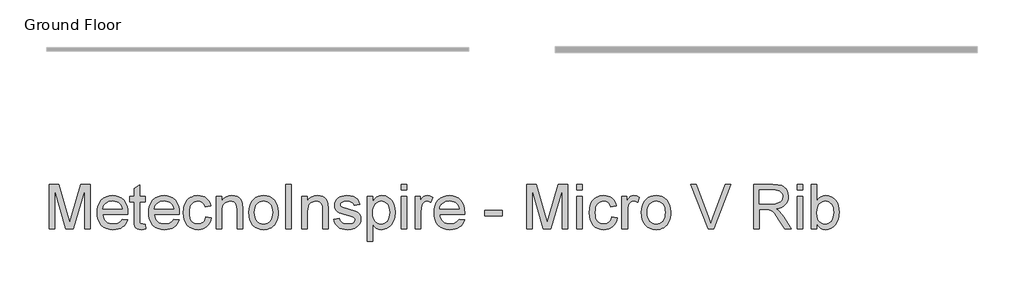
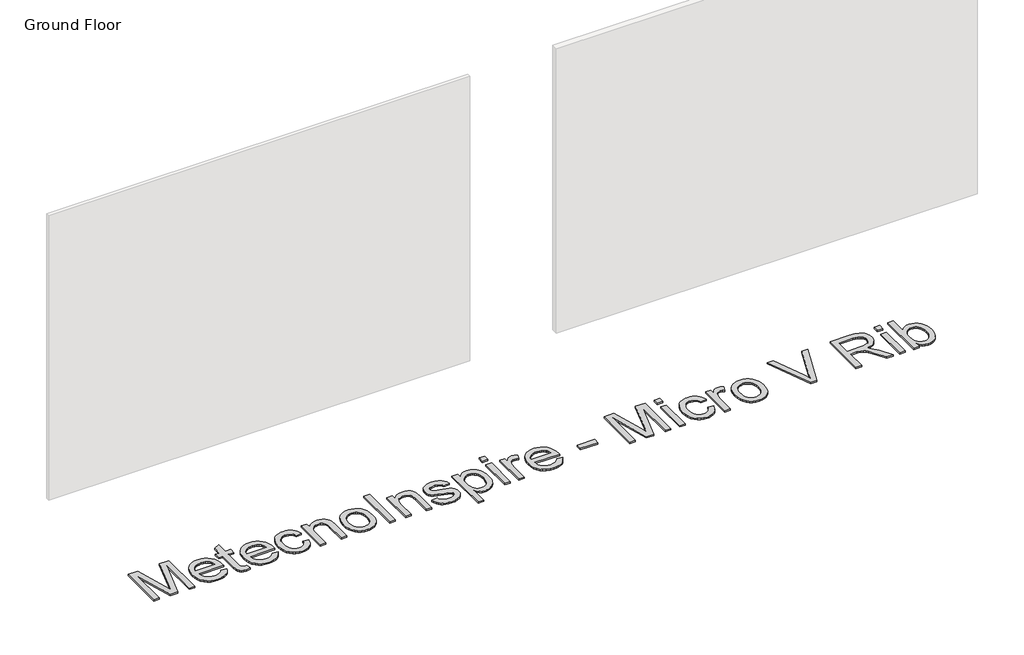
# One storey, part 4 of 5: 1 proxy.
"""IFC4 building model written with IfcOpenShell, lengths in millimetres."""

from ifc_helpers import new_model, si_unit, origin, origin_with_axes, place, context, project, spatial, polyline, outline, extrude, element, save

model = new_model("IFC4")

# Units and contexts
model_context = context("Model", 3, world=origin())
ifc_project = project(units=[si_unit("LENGTHUNIT", "METRE", prefix="MILLI")], contexts=[model_context])

# Site, building, storey
site = spatial("IfcSite", under=ifc_project)
building = spatial("IfcBuilding", under=site)
storey = spatial("IfcBuildingStorey", under=building, Name="Ground Floor", Elevation=0.0)

# Proxy
placement = place(None, origin())
element("IfcBuildingElementProxy", 1, Name="600mm Arial", ObjectType="600mm Arial", at=placement, inside=storey, context=model_context, shape_type="SweptSolid", body=[
    extrude(outline(polyline([(44468.938782, -1483.8412169), (44468.938782, -893.0719861), (44596.0060897, -893.0719861), (44716.8714743, -1309.4662169), (44741.2464743, -1396.4373708), (44767.640705, -1302.2546784), (44886.4868589, -893.0719861), (45013.5541666, -893.0719861), (45013.5541666, -1483.8412169), (44939.7080127, -1483.8412169), (44939.7080127, -966.91814), (44791.2945512, -1483.8412169), (44691.1983974, -1483.8412169), (44542.7849358, -966.91814), (44542.7849358, -1483.8412169), (44468.938782, -1483.8412169)])), origin_with_axes(), (0.0, 0.0, 1.0), 20.0),
    extrude(outline(polyline([(45437.3041666, -1354.6104477), (45509.7080127, -1363.8412169), (45498.6067507, -1392.8406159), (45483.6202724, -1418.3965054), (45464.7485776, -1440.5088852), (45441.9916666, -1459.1777554), (45415.5839142, -1474.0064813), (45385.7596954, -1484.5984284), (45352.5190103, -1490.9535967), (45315.8618589, -1493.0719861), (45270.0415464, -1489.4166376), (45229.2152243, -1478.4505919), (45193.3828925, -1460.1738491), (45162.5445512, -1434.5864092), (45137.7458733, -1402.4004116), (45120.032532, -1364.3279958), (45109.4045272, -1320.3691616), (45105.8618589, -1270.5239092), (45109.4405849, -1218.9884525), (45120.1767627, -1173.5647746), (45138.0703925, -1134.2528756), (45163.1214743, -1101.0527554), (45193.8786858, -1074.6765534), (45228.890705, -1055.8364092), (45268.157532, -1044.5323227), (45311.6791666, -1040.7642938), (45353.7990584, -1044.5233083), (45391.8895031, -1055.8003515), (45425.9505007, -1074.5954236), (45455.9820512, -1100.9085246), (45480.4967748, -1134.0365294), (45498.0072916, -1173.2763131), (45508.5136017, -1218.6278756), (45512.015705, -1270.0912169), (45511.5830127, -1289.9950631), (45179.7080127, -1289.9950631), (45183.9853565, -1319.4632121), (45192.4904647, -1345.2715054), (45205.2233373, -1367.4199429), (45222.1839743, -1385.9085246), (45242.4348757, -1400.4848467), (45265.0385416, -1410.8965054), (45289.9949719, -1417.1435006), (45317.3041666, -1419.2258323), (45356.6070512, -1415.3676592), (45389.7080127, -1403.79314), (45416.6070512, -1383.7811208), (45437.3041666, -1354.6104477)]), holes=[polyline([(45179.7080127, -1216.1489092), (45438.1695512, -1216.1489092), (45428.1815704, -1177.1344861), (45419.5908252, -1161.7919381), (45408.6022435, -1149.2258323), (45388.4640224, -1134.0816015), (45365.5493589, -1123.2642938), (45339.8582531, -1116.7739092), (45311.390705, -1114.6104477), (45285.4246594, -1116.3367097), (45261.6130608, -1121.5154958), (45239.9559094, -1130.1468058), (45220.453205, -1142.23064), (45204.08752, -1157.2081039), (45191.8414262, -1174.5203034), (45183.7149238, -1194.1672385), (45179.7080127, -1216.1489092)])]), origin_with_axes(), (0.0, 0.0, 1.0), 20.0),
    extrude(outline(polyline([(45742.7849358, -1422.2546784), (45752.015705, -1486.0046784), (45696.7753204, -1493.0719861), (45661.3306089, -1490.0070823), (45634.9003204, -1480.8123708), (45616.2224358, -1466.6416977), (45604.0349358, -1448.6489092), (45597.328205, -1417.7474669), (45595.0926281, -1364.8508323), (45595.0926281, -1123.8412169), (45539.7080127, -1123.8412169), (45539.7080127, -1049.9950631), (45595.0926281, -1049.9950631), (45595.0926281, -944.5623708), (45668.938782, -901.1489092), (45668.938782, -1049.9950631), (45742.7849358, -1049.9950631), (45742.7849358, -1123.8412169), (45668.938782, -1123.8412169), (45668.938782, -1362.6873708), (45672.8330127, -1400.7642938), (45685.453205, -1414.2498708), (45696.1082531, -1417.9818419), (45710.6214743, -1419.2258323), (45742.7849358, -1422.2546784)])), origin_with_axes(), (0.0, 0.0, 1.0), 20.0),
    extrude(outline(polyline([(46120.3810897, -1354.6104477), (46192.7849358, -1363.8412169), (46181.6836738, -1392.8406159), (46166.6971954, -1418.3965054), (46147.8255007, -1440.5088852), (46125.0685897, -1459.1777554), (46098.6608373, -1474.0064813), (46068.8366185, -1484.5984284), (46035.5959334, -1490.9535967), (45998.938782, -1493.0719861), (45953.1184695, -1489.4166376), (45912.2921474, -1478.4505919), (45876.4598156, -1460.1738491), (45845.6214743, -1434.5864092), (45820.8227964, -1402.4004116), (45803.109455, -1364.3279958), (45792.4814502, -1320.3691616), (45788.938782, -1270.5239092), (45792.5175079, -1218.9884525), (45803.2536858, -1173.5647746), (45821.1473156, -1134.2528756), (45846.1983974, -1101.0527554), (45876.9556089, -1074.6765534), (45911.9676281, -1055.8364092), (45951.234455, -1044.5323227), (45994.7560897, -1040.7642938), (46036.8759815, -1044.5233083), (46074.9664262, -1055.8003515), (46109.0274238, -1074.5954236), (46139.0589743, -1100.9085246), (46163.5736978, -1134.0365294), (46181.0842147, -1173.2763131), (46191.5905248, -1218.6278756), (46195.0926281, -1270.0912169), (46194.6599358, -1289.9950631), (45862.7849358, -1289.9950631), (45867.0622796, -1319.4632121), (45875.5673877, -1345.2715054), (45888.3002603, -1367.4199429), (45905.2608974, -1385.9085246), (45925.5117988, -1400.4848467), (45948.1154647, -1410.8965054), (45973.071895, -1417.1435006), (46000.3810897, -1419.2258323), (46039.6839743, -1415.3676592), (46072.7849358, -1403.79314), (46099.6839743, -1383.7811208), (46120.3810897, -1354.6104477)]), holes=[polyline([(45862.7849358, -1216.1489092), (46121.2464743, -1216.1489092), (46111.2584935, -1177.1344861), (46102.6677483, -1161.7919381), (46091.6791666, -1149.2258323), (46071.5409454, -1134.0816015), (46048.626282, -1123.2642938), (46022.9351762, -1116.7739092), (45994.4676281, -1114.6104477), (45968.5015825, -1116.3367097), (45944.6899839, -1121.5154958), (45923.0328325, -1130.1468058), (45903.5301281, -1142.23064), (45887.164443, -1157.2081039), (45874.9183493, -1174.5203034), (45866.7918469, -1194.1672385), (45862.7849358, -1216.1489092)])]), origin_with_axes(), (0.0, 0.0, 1.0), 20.0),
    extrude(outline(polyline([(46545.8618589, -1326.91814), (46619.7080127, -1336.1489092), (46611.6761618, -1370.9941616), (46599.1190704, -1401.8279958), (46582.0367387, -1428.6504116), (46560.4291666, -1451.4614092), (46535.2068108, -1469.6660366), (46507.2801281, -1482.6693419), (46476.6491185, -1490.4713251), (46443.313782, -1493.0719861), (46401.8970151, -1489.4436808), (46364.7620993, -1478.558765), (46331.9090344, -1460.4172385), (46303.3378204, -1435.0191015), (46280.211318, -1402.8421183), (46263.6923877, -1364.3640534), (46253.7810296, -1319.5849068), (46250.4772435, -1268.5046784), (46256.1202724, -1202.7895342), (46263.1740584, -1173.2177193), (46273.0493589, -1145.8364092), (46285.813782, -1121.1954837), (46301.5349358, -1099.8448227), (46320.2128204, -1081.784426), (46341.8474358, -1067.0142938), (46365.4607171, -1055.5299188), (46390.0745993, -1047.3267938), (46415.6890825, -1042.4049188), (46442.3041666, -1040.7642938), (46475.0670873, -1043.0178996), (46504.7020031, -1049.7787169), (46531.2089142, -1061.0467458), (46554.5878204, -1076.8219861), (46574.4420873, -1096.7438611), (46590.37508, -1120.4517938), (46602.3867988, -1147.9457842), (46610.4772435, -1179.2258323), (46536.6310897, -1188.4566015), (46523.235657, -1156.2390534), (46502.376282, -1133.1441015), (46475.2068108, -1119.2438611), (46442.8810897, -1114.6104477), (46417.789443, -1116.8910967), (46395.1587339, -1123.7330438), (46374.9889623, -1135.136289), (46357.2801281, -1151.1008323), (46342.8615584, -1171.996265), (46332.56258, -1198.1921784), (46326.383193, -1229.6885727), (46324.3233974, -1266.4854477), (46326.3381209, -1303.8367097), (46332.3822916, -1335.6981881), (46342.4559094, -1362.0698828), (46356.5589743, -1382.9517938), (46373.9162459, -1398.8216857), (46393.7524839, -1410.1573227), (46416.0676882, -1416.9587049), (46440.8618589, -1419.2258323), (46479.1010416, -1413.5647746), (46495.6380007, -1406.4884525), (46510.453205, -1396.5816015), (46523.1319911, -1383.7360486), (46533.2596954, -1367.8436208), (46540.836318, -1348.9043179), (46545.8618589, -1326.91814)])), origin_with_axes(), (0.0, 0.0, 1.0), 20.0),
    extrude(outline(polyline([(46684.3233974, -1483.8412169), (46684.3233974, -1049.9950631), (46758.1695512, -1049.9950631), (46758.1695512, -1110.5719861), (46783.8245993, -1080.0311208), (46814.6358974, -1058.2162169), (46850.6034454, -1045.1272746), (46891.7272435, -1040.7642938), (46928.1274839, -1044.2799188), (46961.4628204, -1054.8267938), (46989.2633012, -1071.0888131), (47009.0589743, -1091.7498708), (47022.4904647, -1116.7558804), (47031.1983974, -1146.0527554), (47035.0926281, -1217.4469861), (47035.0926281, -1483.8412169), (46961.2464743, -1483.8412169), (46961.2464743, -1227.3989092), (46959.1190704, -1189.2138131), (46952.7368589, -1162.0623708), (46940.9640224, -1142.6092458), (46922.6647435, -1127.5191015), (46899.2092147, -1117.8376111), (46871.9676281, -1114.6104477), (46849.5442507, -1116.4223467), (46828.7164262, -1121.8580438), (46809.4841546, -1130.917539), (46791.8474358, -1143.6008323), (46777.1133613, -1161.3502313), (46766.5890224, -1185.6080438), (46760.274419, -1216.3742698), (46758.1695512, -1253.6489092), (46758.1695512, -1483.8412169), (46684.3233974, -1483.8412169)])), origin_with_axes(), (0.0, 0.0, 1.0), 20.0),
    extrude(outline(polyline([(47118.1695512, -1266.91814), (47122.1629406, -1210.7312409), (47134.1431089, -1162.3147746), (47154.110056, -1121.6687409), (47182.063782, -1088.79314), (47210.2068108, -1067.7805198), (47241.2705127, -1052.7715054), (47275.2548877, -1043.7660967), (47312.1599358, -1040.7642938), (47352.9006209, -1044.4196424), (47389.7380608, -1055.3856881), (47422.6722555, -1073.6624308), (47451.703205, -1099.2498708), (47475.3976161, -1131.2826232), (47492.3221954, -1168.8953034), (47502.476943, -1212.0879116), (47505.8618589, -1260.8604477), (47504.3654647, -1300.3886929), (47499.876282, -1335.4638131), (47492.3943108, -1366.0858083), (47481.9195512, -1392.2546784), (47468.5827123, -1414.8583443), (47452.5145031, -1434.7847265), (47433.7149238, -1452.0338251), (47412.1839743, -1466.60564), (47388.7599959, -1478.1846664), (47364.28133, -1486.4553996), (47338.7479767, -1491.4178395), (47312.1599358, -1493.0719861), (47270.8242988, -1489.4301592), (47233.6443108, -1478.5046784), (47200.6199719, -1460.2955438), (47171.751282, -1434.8027554), (47148.3092748, -1402.4590054), (47131.5649839, -1363.6969861), (47121.5184094, -1318.5166977), (47118.1695512, -1266.91814)]), holes=[polyline([(47192.015705, -1266.7739092), (47194.1521233, -1302.5927193), (47200.5613781, -1333.6068419), (47211.2434695, -1359.816277), (47226.1983974, -1381.2210246), (47244.3895031, -1397.848128), (47264.7801281, -1409.7246304), (47287.3702724, -1416.8505318), (47312.1599358, -1419.2258323), (47336.8233974, -1416.8370102), (47359.3233974, -1409.6705438), (47379.6599358, -1397.7264333), (47397.8330127, -1381.0046784), (47412.7879406, -1359.3880919), (47423.470032, -1332.7594861), (47429.8792868, -1301.1188611), (47432.015705, -1264.4662169), (47429.8657651, -1229.7832241), (47423.4159454, -1199.5803996), (47412.6662459, -1173.8577433), (47397.6166666, -1152.6152554), (47379.3759815, -1135.988152), (47359.0529647, -1124.1116496), (47336.6476161, -1116.9857482), (47312.1599358, -1114.6104477), (47287.3702724, -1116.9767337), (47264.7801281, -1124.0755919), (47244.3895031, -1135.9070222), (47226.1983974, -1152.4710246), (47211.2434695, -1173.8126712), (47200.5613781, -1199.9770342), (47194.1521233, -1230.9641135), (47192.015705, -1266.7739092)])]), origin_with_axes(), (0.0, 0.0, 1.0), 20.0),
    extrude(outline(polyline([(47607.4003204, -1483.8412169), (47607.4003204, -893.0719861), (47681.2464743, -893.0719861), (47681.2464743, -1483.8412169), (47607.4003204, -1483.8412169)])), origin_with_axes(), (0.0, 0.0, 1.0), 20.0),
    extrude(outline(polyline([(47819.7080127, -1483.8412169), (47819.7080127, -1049.9950631), (47893.5541666, -1049.9950631), (47893.5541666, -1110.5719861), (47919.2092147, -1080.0311208), (47950.0205127, -1058.2162169), (47985.9880608, -1045.1272746), (48027.1118589, -1040.7642938), (48063.5120993, -1044.2799188), (48096.8474358, -1054.8267938), (48124.6479166, -1071.0888131), (48144.4435897, -1091.7498708), (48157.87508, -1116.7558804), (48166.5830127, -1146.0527554), (48170.4772435, -1217.4469861), (48170.4772435, -1483.8412169), (48096.6310897, -1483.8412169), (48096.6310897, -1227.3989092), (48094.5036858, -1189.2138131), (48088.1214743, -1162.0623708), (48076.3486377, -1142.6092458), (48058.0493589, -1127.5191015), (48034.59383, -1117.8376111), (48007.3522435, -1114.6104477), (47984.9288661, -1116.4223467), (47964.1010416, -1121.8580438), (47944.86877, -1130.917539), (47927.2320512, -1143.6008323), (47912.4979767, -1161.3502313), (47901.9736377, -1185.6080438), (47895.6590344, -1216.3742698), (47893.5541666, -1253.6489092), (47893.5541666, -1483.8412169), (47819.7080127, -1483.8412169)])), origin_with_axes(), (0.0, 0.0, 1.0), 20.0),
    extrude(outline(polyline([(48244.3233974, -1354.6104477), (48318.1695512, -1345.3796784), (48322.6316906, -1362.2186208), (48329.8161858, -1376.9662169), (48339.7230368, -1389.6224669), (48352.3522435, -1400.1873708), (48367.7398637, -1408.5166977), (48385.921955, -1414.4662169), (48430.6695512, -1419.2258323), (48474.876282, -1414.8628515), (48492.0577724, -1409.4091256), (48505.9580127, -1401.7739092), (48524.3474358, -1382.8075631), (48530.4772435, -1360.8123708), (48528.9357772, -1350.8424188), (48524.3113781, -1341.9902554), (48505.813782, -1327.6392938), (48478.157532, -1318.2642938), (48429.8041666, -1306.5816015), (48362.4123397, -1287.0924188), (48318.6022435, -1270.4517938), (48290.4592147, -1252.2967458), (48270.0685897, -1228.2642938), (48257.6827724, -1199.88689), (48253.5541666, -1168.6969861), (48256.8714743, -1140.0852073), (48266.8233974, -1113.6729477), (48282.5084935, -1090.5058804), (48303.0253204, -1071.6296784), (48323.4159454, -1059.7486688), (48349.9724358, -1049.7787169), (48380.6755608, -1043.0178996), (48413.5060897, -1040.7642938), (48461.5709935, -1044.3880919), (48503.3618589, -1055.2594861), (48536.9676281, -1072.3147746), (48560.4772435, -1094.4902554), (48576.0541666, -1123.4265534), (48585.8618589, -1160.7642938), (48512.015705, -1169.9950631), (48502.6947916, -1146.7558804), (48484.251282, -1129.2498708), (48456.5048877, -1118.2703034), (48419.2753204, -1114.6104477), (48376.8714743, -1118.1080438), (48348.6022435, -1128.6008323), (48332.7008012, -1143.7450631), (48327.4003204, -1161.1969861), (48329.5998397, -1172.5551592), (48336.1983974, -1182.6873708), (48347.484455, -1191.7378515), (48363.7464743, -1198.9854477), (48427.3522435, -1214.7066015), (48535.7416666, -1249.4662169), (48564.3714743, -1266.0888131), (48586.078205, -1288.8412169), (48599.7620993, -1317.7955438), (48604.3233974, -1353.0239092), (48598.96883, -1389.4421784), (48582.9051281, -1423.6969861), (48556.7452724, -1453.1020342), (48521.1022435, -1474.9710246), (48478.0493589, -1488.5467458), (48429.6599358, -1493.0719861), (48389.9153445, -1490.8904958), (48355.2008012, -1484.3460246), (48325.516306, -1473.4385727), (48300.8618589, -1458.16814), (48280.7236377, -1438.6068419), (48264.5878204, -1414.8267938), (48252.454407, -1386.8279958), (48244.3233974, -1354.6104477)])), origin_with_axes(), (0.0, 0.0, 1.0), 20.0),
    extrude(outline(polyline([(48687.4003204, -1649.9950631), (48687.4003204, -1049.9950631), (48761.2464743, -1049.9950631), (48761.2464743, -1122.3989092), (48785.3330127, -1086.683765), (48812.3041666, -1061.1729477), (48843.7464743, -1045.8664573), (48881.2464743, -1040.7642938), (48907.000681, -1042.5491496), (48931.1863781, -1047.9037169), (48953.8035656, -1056.8279958), (48974.8522435, -1069.3219861), (48993.8726762, -1085.0611688), (49010.4051281, -1103.7210246), (49024.4495993, -1125.3015534), (49036.0060897, -1149.8027554), (49051.4748397, -1204.2138131), (49056.6310897, -1263.6008323), (49050.8077724, -1326.7558804), (49043.5286257, -1355.831902), (49033.3378204, -1383.2402554), (49020.37508, -1408.2642938), (49004.7801281, -1430.1873708), (48986.5529647, -1449.0094861), (48965.6935897, -1464.73064), (48943.2251401, -1477.1299789), (48920.1707531, -1485.9866496), (48896.5304286, -1491.300652), (48872.3041666, -1493.0719861), (48838.3558493, -1488.3303996), (48808.0493589, -1474.10564), (48782.1058493, -1452.6332842), (48761.2464743, -1426.1489092), (48761.2464743, -1649.9950631), (48687.4003204, -1649.9950631)]), holes=[polyline([(48761.2464743, -1270.3796784), (48763.243169, -1305.9686208), (48769.2332531, -1336.5816015), (48779.2167267, -1362.2186208), (48793.1935897, -1382.8796784), (48810.0190103, -1398.7811208), (48828.548157, -1410.1392938), (48848.7810296, -1416.9541977), (48870.7176281, -1419.2258323), (48892.9697315, -1416.8730679), (48913.5721954, -1409.8147746), (48932.52502, -1398.0509525), (48949.828205, -1381.5816015), (48964.2467748, -1360.1723467), (48974.5457531, -1333.5888131), (48980.7251401, -1301.8310006), (48982.7849358, -1264.8989092), (48980.7747195, -1229.6164573), (48974.7440704, -1199.0575631), (48964.6929887, -1173.2222265), (48950.6214743, -1152.1104477), (48933.7554887, -1135.7041977), (48915.3209935, -1123.9854477), (48895.3179887, -1116.9541977), (48873.7464743, -1114.6104477), (48852.242568, -1117.1029357), (48832.0096954, -1124.5803996), (48813.0478565, -1137.0428395), (48795.3570512, -1154.4902554), (48780.4336738, -1176.6882722), (48769.7741185, -1203.402515), (48763.3783853, -1234.6329837), (48761.2464743, -1270.3796784)])]), origin_with_axes(), (0.0, 0.0, 1.0), 20.0),
    extrude(outline(polyline([(49139.7080127, -1483.8412169), (49139.7080127, -1049.9950631), (49213.5541666, -1049.9950631), (49213.5541666, -1483.8412169), (49139.7080127, -1483.8412169)])), origin_with_axes(), (0.0, 0.0, 1.0), 20.0),
    extrude(outline(polyline([(49139.7080127, -966.91814), (49139.7080127, -893.0719861), (49213.5541666, -893.0719861), (49213.5541666, -966.91814), (49139.7080127, -966.91814)])), origin_with_axes(), (0.0, 0.0, 1.0), 20.0),
    extrude(outline(polyline([(49324.3233974, -1483.8412169), (49324.3233974, -1049.9950631), (49388.938782, -1049.9950631), (49388.938782, -1114.1777554), (49412.8089743, -1076.9662169), (49434.8041666, -1055.04314), (49456.8714743, -1044.3340054), (49480.9580127, -1040.7642938), (49517.7368589, -1046.4614092), (49555.0926281, -1063.5527554), (49530.4291666, -1129.7546784), (49504.4676281, -1118.3965054), (49478.5060897, -1114.6104477), (49456.4568108, -1118.2522746), (49436.751282, -1129.1777554), (49420.8318108, -1146.5575631), (49410.140705, -1169.5623708), (49401.1623397, -1210.8123708), (49398.1695512, -1255.8123708), (49398.1695512, -1483.8412169), (49324.3233974, -1483.8412169)])), origin_with_axes(), (0.0, 0.0, 1.0), 20.0),
    extrude(outline(polyline([(49904.9964743, -1354.6104477), (49977.4003204, -1363.8412169), (49966.2990584, -1392.8406159), (49951.31258, -1418.3965054), (49932.4408853, -1440.5088852), (49909.6839743, -1459.1777554), (49883.2762219, -1474.0064813), (49853.4520031, -1484.5984284), (49820.211318, -1490.9535967), (49783.5541666, -1493.0719861), (49737.7338541, -1489.4166376), (49696.907532, -1478.4505919), (49661.0752002, -1460.1738491), (49630.2368589, -1434.5864092), (49605.438181, -1402.4004116), (49587.7248397, -1364.3279958), (49577.0968349, -1320.3691616), (49573.5541666, -1270.5239092), (49577.1328925, -1218.9884525), (49587.8690704, -1173.5647746), (49605.7627002, -1134.2528756), (49630.813782, -1101.0527554), (49661.5709935, -1074.6765534), (49696.5830127, -1055.8364092), (49735.8498397, -1044.5323227), (49779.3714743, -1040.7642938), (49821.4913661, -1044.5233083), (49859.5818108, -1055.8003515), (49893.6428084, -1074.5954236), (49923.6743589, -1100.9085246), (49948.1890825, -1134.0365294), (49965.6995993, -1173.2763131), (49976.2059094, -1218.6278756), (49979.7080127, -1270.0912169), (49979.2753204, -1289.9950631), (49647.4003204, -1289.9950631), (49651.6776642, -1319.4632121), (49660.1827724, -1345.2715054), (49672.915645, -1367.4199429), (49689.876282, -1385.9085246), (49710.1271834, -1400.4848467), (49732.7308493, -1410.8965054), (49757.6872796, -1417.1435006), (49784.9964743, -1419.2258323), (49824.2993589, -1415.3676592), (49857.4003204, -1403.79314), (49884.2993589, -1383.7811208), (49904.9964743, -1354.6104477)]), holes=[polyline([(49647.4003204, -1216.1489092), (49905.8618589, -1216.1489092), (49895.8738781, -1177.1344861), (49887.2831329, -1161.7919381), (49876.2945512, -1149.2258323), (49856.15633, -1134.0816015), (49833.2416666, -1123.2642938), (49807.5505608, -1116.7739092), (49779.0830127, -1114.6104477), (49753.1169671, -1116.3367097), (49729.3053685, -1121.5154958), (49707.6482171, -1130.1468058), (49688.1455127, -1142.23064), (49671.7798276, -1157.2081039), (49659.5337339, -1174.5203034), (49651.4072315, -1194.1672385), (49647.4003204, -1216.1489092)])]), origin_with_axes(), (0.0, 0.0, 1.0), 20.0),
    extrude(outline(polyline([(50247.4003204, -1308.4566015), (50247.4003204, -1234.6104477), (50478.1695512, -1234.6104477), (50478.1695512, -1308.4566015), (50247.4003204, -1308.4566015)])), origin_with_axes(), (0.0, 0.0, 1.0), 20.0),
    extrude(outline(polyline([(50801.2464743, -1483.8412169), (50801.2464743, -893.0719861), (50928.313782, -893.0719861), (51049.1791666, -1309.4662169), (51073.5541666, -1396.4373708), (51099.9483974, -1302.2546784), (51218.7945512, -893.0719861), (51345.8618589, -893.0719861), (51345.8618589, -1483.8412169), (51272.015705, -1483.8412169), (51272.015705, -966.91814), (51123.6022435, -1483.8412169), (51023.5060897, -1483.8412169), (50875.0926281, -966.91814), (50875.0926281, -1483.8412169), (50801.2464743, -1483.8412169)])), origin_with_axes(), (0.0, 0.0, 1.0), 20.0),
    extrude(outline(polyline([(51465.8618589, -1483.8412169), (51465.8618589, -1049.9950631), (51539.7080127, -1049.9950631), (51539.7080127, -1483.8412169), (51465.8618589, -1483.8412169)])), origin_with_axes(), (0.0, 0.0, 1.0), 20.0),
    extrude(outline(polyline([(51465.8618589, -966.91814), (51465.8618589, -893.0719861), (51539.7080127, -893.0719861), (51539.7080127, -966.91814), (51465.8618589, -966.91814)])), origin_with_axes(), (0.0, 0.0, 1.0), 20.0),
    extrude(outline(polyline([(51927.4003204, -1326.91814), (52001.2464743, -1336.1489092), (51993.2146233, -1370.9941616), (51980.657532, -1401.8279958), (51963.5752002, -1428.6504116), (51941.9676281, -1451.4614092), (51916.7452724, -1469.6660366), (51888.8185897, -1482.6693419), (51858.18758, -1490.4713251), (51824.8522435, -1493.0719861), (51783.4354767, -1489.4436808), (51746.3005608, -1478.558765), (51713.4474959, -1460.4172385), (51684.876282, -1435.0191015), (51661.7497796, -1402.8421183), (51645.2308493, -1364.3640534), (51635.3194911, -1319.5849068), (51632.015705, -1268.5046784), (51637.6587339, -1202.7895342), (51644.71252, -1173.2177193), (51654.5878204, -1145.8364092), (51667.3522435, -1121.1954837), (51683.0733974, -1099.8448227), (51701.751282, -1081.784426), (51723.3858974, -1067.0142938), (51746.9991786, -1055.5299188), (51771.6130608, -1047.3267938), (51797.227544, -1042.4049188), (51823.8426281, -1040.7642938), (51856.6055488, -1043.0178996), (51886.2404647, -1049.7787169), (51912.7473757, -1061.0467458), (51936.126282, -1076.8219861), (51955.9805488, -1096.7438611), (51971.9135416, -1120.4517938), (51983.9252603, -1147.9457842), (51992.015705, -1179.2258323), (51918.1695512, -1188.4566015), (51904.7741185, -1156.2390534), (51883.9147435, -1133.1441015), (51856.7452724, -1119.2438611), (51824.4195512, -1114.6104477), (51799.3279046, -1116.8910967), (51776.6971954, -1123.7330438), (51756.5274238, -1135.136289), (51738.8185897, -1151.1008323), (51724.40002, -1171.996265), (51714.1010416, -1198.1921784), (51707.9216546, -1229.6885727), (51705.8618589, -1266.4854477), (51707.8765825, -1303.8367097), (51713.9207531, -1335.6981881), (51723.9943709, -1362.0698828), (51738.0974358, -1382.9517938), (51755.4547075, -1398.8216857), (51775.2909454, -1410.1573227), (51797.6061498, -1416.9587049), (51822.4003204, -1419.2258323), (51860.6395031, -1413.5647746), (51877.1764623, -1406.4884525), (51891.9916666, -1396.5816015), (51904.6704526, -1383.7360486), (51914.798157, -1367.8436208), (51922.3747796, -1348.9043179), (51927.4003204, -1326.91814)])), origin_with_axes(), (0.0, 0.0, 1.0), 20.0),
    extrude(outline(polyline([(52065.8618589, -1483.8412169), (52065.8618589, -1049.9950631), (52130.4772435, -1049.9950631), (52130.4772435, -1114.1777554), (52154.3474358, -1076.9662169), (52176.3426281, -1055.04314), (52198.4099358, -1044.3340054), (52222.4964743, -1040.7642938), (52259.2753204, -1046.4614092), (52296.6310897, -1063.5527554), (52271.9676281, -1129.7546784), (52246.0060897, -1118.3965054), (52220.0445512, -1114.6104477), (52197.9952724, -1118.2522746), (52178.2897435, -1129.1777554), (52162.3702724, -1146.5575631), (52151.6791666, -1169.5623708), (52142.7008012, -1210.8123708), (52139.7080127, -1255.8123708), (52139.7080127, -1483.8412169), (52065.8618589, -1483.8412169)])), origin_with_axes(), (0.0, 0.0, 1.0), 20.0),
    extrude(outline(polyline([(52324.3233974, -1266.91814), (52328.3167868, -1210.7312409), (52340.296955, -1162.3147746), (52360.2639022, -1121.6687409), (52388.2176281, -1088.79314), (52416.360657, -1067.7805198), (52447.4243589, -1052.7715054), (52481.4087339, -1043.7660967), (52518.313782, -1040.7642938), (52559.0544671, -1044.4196424), (52595.891907, -1055.3856881), (52628.8261017, -1073.6624308), (52657.8570512, -1099.2498708), (52681.5514623, -1131.2826232), (52698.4760416, -1168.8953034), (52708.6307892, -1212.0879116), (52712.015705, -1260.8604477), (52710.5193108, -1300.3886929), (52706.0301281, -1335.4638131), (52698.548157, -1366.0858083), (52688.0733974, -1392.2546784), (52674.7365584, -1414.8583443), (52658.6683493, -1434.7847265), (52639.86877, -1452.0338251), (52618.3378204, -1466.60564), (52594.9138421, -1478.1846664), (52570.4351762, -1486.4553996), (52544.9018228, -1491.4178395), (52518.313782, -1493.0719861), (52476.978145, -1489.4301592), (52439.798157, -1478.5046784), (52406.773818, -1460.2955438), (52377.9051281, -1434.8027554), (52354.4631209, -1402.4590054), (52337.71883, -1363.6969861), (52327.6722555, -1318.5166977), (52324.3233974, -1266.91814)]), holes=[polyline([(52398.1695512, -1266.7739092), (52400.3059695, -1302.5927193), (52406.7152243, -1333.6068419), (52417.3973156, -1359.816277), (52432.3522435, -1381.2210246), (52450.5433493, -1397.848128), (52470.9339743, -1409.7246304), (52493.5241185, -1416.8505318), (52518.313782, -1419.2258323), (52542.9772435, -1416.8370102), (52565.4772435, -1409.6705438), (52585.813782, -1397.7264333), (52603.9868589, -1381.0046784), (52618.9417868, -1359.3880919), (52629.6238781, -1332.7594861), (52636.0331329, -1301.1188611), (52638.1695512, -1264.4662169), (52636.0196113, -1229.7832241), (52629.5697916, -1199.5803996), (52618.8200921, -1173.8577433), (52603.7705127, -1152.6152554), (52585.5298276, -1135.988152), (52565.2068108, -1124.1116496), (52542.8014623, -1116.9857482), (52518.313782, -1114.6104477), (52493.5241185, -1116.9767337), (52470.9339743, -1124.0755919), (52450.5433493, -1135.9070222), (52432.3522435, -1152.4710246), (52417.3973156, -1173.8126712), (52406.7152243, -1199.9770342), (52400.3059695, -1230.9641135), (52398.1695512, -1266.7739092)])]), origin_with_axes(), (0.0, 0.0, 1.0), 20.0),
    extrude(outline(polyline([(53209.6118589, -1483.8412169), (52974.515705, -893.0719861), (53053.5541666, -893.0719861), (53210.9099358, -1318.6969861), (53242.7849358, -1414.6104477), (53274.2272435, -1318.6969861), (53432.015705, -893.0719861), (53511.0541666, -893.0719861), (53285.9099358, -1483.8412169), (53209.6118589, -1483.8412169)])), origin_with_axes(), (0.0, 0.0, 1.0), 20.0),
    extrude(outline(polyline([(53810.4772435, -1483.8412169), (53810.4772435, -893.0719861), (54065.0445512, -893.0719861), (54133.4640224, -897.0563611), (54183.2416666, -909.0094861), (54202.4514022, -918.5106881), (54219.6238781, -931.0767938), (54234.7590945, -946.7078034), (54247.8570512, -965.4037169), (54258.4264623, -986.159426), (54265.9760416, -1007.9698227), (54272.015705, -1054.7546784), (54269.5142026, -1085.0972265), (54262.0096954, -1112.9517938), (54249.5021834, -1138.3183804), (54231.9916666, -1161.1969861), (54209.2527844, -1180.8574429), (54181.0601762, -1196.5695823), (54147.4138421, -1208.3334044), (54108.313782, -1216.1489092), (54132.6527243, -1232.0503515), (54150.2849358, -1247.7354477), (54210.140705, -1323.7450631), (54308.6503204, -1483.8412169), (54222.8330127, -1483.8412169), (54145.9580127, -1361.3892938), (54090.4291666, -1280.3316015), (54069.7861377, -1256.6957842), (54051.4147435, -1242.0383323), (54016.2945512, -1227.9758323), (53973.4580127, -1225.3796784), (53884.3233974, -1225.3796784), (53884.3233974, -1483.8412169), (53810.4772435, -1483.8412169)]), holes=[polyline([(53884.3233974, -1151.5335246), (54049.6118589, -1151.5335246), (54097.0818108, -1148.9193419), (54133.9147435, -1141.0767938), (54161.6431089, -1127.4830438), (54181.7993589, -1107.6152554), (54194.0770031, -1083.5828034), (54198.1695512, -1057.4950631), (54196.2179286, -1038.6098467), (54190.3630608, -1021.4734284), (54180.6049478, -1006.0858083), (54166.9435897, -992.4469861), (54149.0634815, -981.2781159), (54126.6491185, -973.3003515), (54099.7005007, -968.5136929), (54068.2176281, -966.91814), (53884.3233974, -966.91814), (53884.3233974, -1151.5335246)])]), origin_with_axes(), (0.0, 0.0, 1.0), 20.0),
    extrude(outline(polyline([(54392.015705, -1483.8412169), (54392.015705, -1049.9950631), (54465.8618589, -1049.9950631), (54465.8618589, -1483.8412169), (54392.015705, -1483.8412169)])), origin_with_axes(), (0.0, 0.0, 1.0), 20.0),
    extrude(outline(polyline([(54392.015705, -966.91814), (54392.015705, -893.0719861), (54465.8618589, -893.0719861), (54465.8618589, -966.91814), (54392.015705, -966.91814)])), origin_with_axes(), (0.0, 0.0, 1.0), 20.0),
    extrude(outline(polyline([(54650.4772435, -1483.8412169), (54576.6310897, -1483.8412169), (54576.6310897, -893.0719861), (54650.4772435, -893.0719861), (54650.4772435, -1112.1585246), (54674.7620993, -1080.9235486), (54702.1839743, -1058.6128515), (54732.7428685, -1045.2264333), (54766.438782, -1040.7642938), (54804.4796474, -1044.7847265), (54840.4291666, -1056.8460246), (54872.2320512, -1076.1909765), (54897.8330127, -1102.0623708), (54917.8991185, -1134.2078034), (54933.0974358, -1172.3748708), (54942.6707531, -1214.9770342), (54945.8618589, -1260.4277554), (54942.5580728, -1312.8736688), (54932.6467147, -1359.0094861), (54916.1277844, -1398.8352073), (54893.001282, -1432.3508323), (54865.2413661, -1458.9163371), (54834.8221954, -1477.8916977), (54801.74377, -1489.276914), (54766.0060897, -1493.0719861), (54731.2014022, -1488.1771544), (54700.345032, -1473.4926592), (54673.4369791, -1449.0185006), (54650.4772435, -1414.7546784), (54650.4772435, -1483.8412169)]), holes=[polyline([(54650.4772435, -1263.8892938), (54655.5253204, -1325.4758323), (54661.8354166, -1348.8051592), (54670.6695512, -1367.1585246), (54688.563181, -1389.9379717), (54709.359455, -1406.2090054), (54733.0583733, -1415.9716256), (54759.6599358, -1419.2258323), (54781.7452724, -1416.8279958), (54802.2801281, -1409.6344861), (54821.2645031, -1397.6453034), (54838.6983974, -1380.8604477), (54853.2747195, -1359.3249909), (54863.6863781, -1333.0840054), (54869.9333733, -1302.1374909), (54872.015705, -1266.4854477), (54870.0190103, -1230.1573227), (54864.0289262, -1198.9133323), (54854.0454526, -1172.7534765), (54840.0685897, -1151.6777554), (54823.2611978, -1135.4608083), (54804.7861377, -1123.8772746), (54784.6434094, -1116.9271544), (54762.8330127, -1114.6104477), (54740.7476762, -1117.0082842), (54720.2128204, -1124.2017938), (54701.2284454, -1136.1909765), (54683.7945512, -1152.9758323), (54669.2182291, -1174.2949429), (54658.8065704, -1199.88689), (54652.5595752, -1229.7516736), (54650.4772435, -1263.8892938)])]), origin_with_axes(), (0.0, 0.0, 1.0), 20.0),
])

save(model, "model.ifc")
